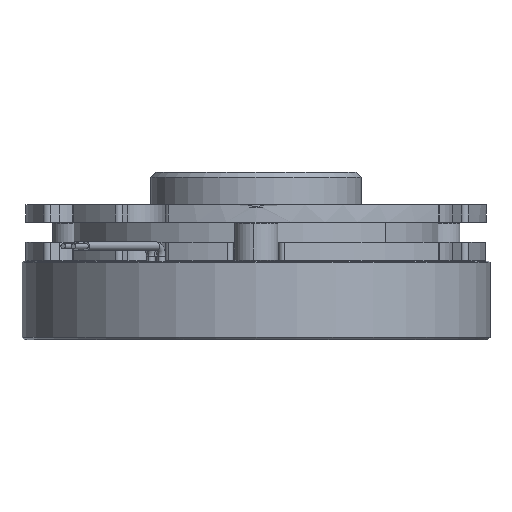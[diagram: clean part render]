
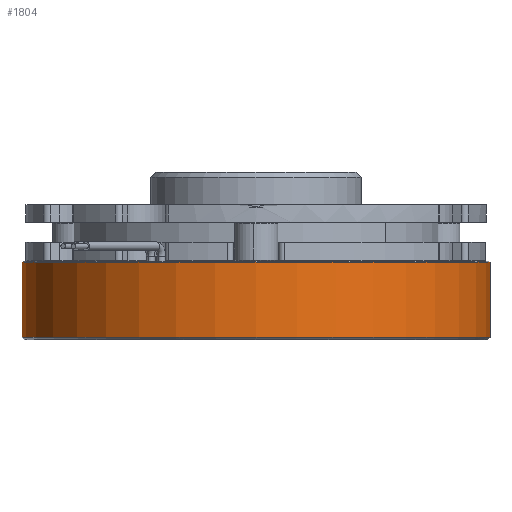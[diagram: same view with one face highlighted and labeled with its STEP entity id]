
A CAD part, front view. The second image highlights one B-rep face of the part: STEP entity #1804.
In plain terms, the highlighted cylindrical face has radius 46.75 mm (diameter 93.5 mm), a partial arc.
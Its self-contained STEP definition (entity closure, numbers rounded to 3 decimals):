
#413 = EDGE_LOOP ( 'NONE', ( #9579, #9580, #9581, #9582 ) ) ;
#1804 = ADVANCED_FACE ( 'NONE', ( #7446 ), #7454, .T. ) ;
#2130 = CARTESIAN_POINT ( 'NONE',  ( -46.75, 0., 15.5 ) ) ;
#2194 = CARTESIAN_POINT ( 'NONE',  ( 46.75, 0., 0.5 ) ) ;
#2315 = CARTESIAN_POINT ( 'NONE',  ( 46.75, 0., 15.5 ) ) ;
#2345 = CARTESIAN_POINT ( 'NONE',  ( -46.75, 0., 0.5 ) ) ;
#5763 = EDGE_CURVE ( 'NONE', #12122, #12396, #7245, .T. ) ;
#5764 = EDGE_CURVE ( 'NONE', #12344, #12186, #7243, .T. ) ;
#5780 = EDGE_CURVE ( 'NONE', #12396, #12186, #7273, .T. ) ;
#5826 = EDGE_CURVE ( 'NONE', #12344, #12122, #7341, .T. ) ;
#6372 = DIRECTION ( 'NONE',  ( 0., 0., -1. ) ) ;
#6383 = CARTESIAN_POINT ( 'NONE',  ( 0., 0., 15.7 ) ) ;
#7243 = LINE ( 'NONE', #12406, #7249 ) ;
#7245 = LINE ( 'NONE', #12401, #7247 ) ;
#7247 = VECTOR ( 'NONE', #12392, 1000. ) ;
#7249 = VECTOR ( 'NONE', #12413, 1000. ) ;
#7273 = CIRCLE ( 'NONE', #8344, 46.75 ) ;
#7341 = CIRCLE ( 'NONE', #8368, 46.75 ) ;
#7446 = FACE_OUTER_BOUND ( 'NONE', #413, .T. ) ;
#7454 = CYLINDRICAL_SURFACE ( 'NONE', #8027, 46.75 ) ;
#8027 = AXIS2_PLACEMENT_3D ( 'NONE', #6383, #6372, #13328 ) ;
#8344 = AXIS2_PLACEMENT_3D ( 'NONE', #12459, #12460, #12461 ) ;
#8368 = AXIS2_PLACEMENT_3D ( 'NONE', #9108, #9109, #9110 ) ;
#9108 = CARTESIAN_POINT ( 'NONE',  ( 0., 0., 15.5 ) ) ;
#9109 = DIRECTION ( 'NONE',  ( 0., 0., -1. ) ) ;
#9110 = DIRECTION ( 'NONE',  ( 1., 0., 0. ) ) ;
#9579 = ORIENTED_EDGE ( 'NONE', *, *, #5764, .F. ) ;
#9580 = ORIENTED_EDGE ( 'NONE', *, *, #5826, .T. ) ;
#9581 = ORIENTED_EDGE ( 'NONE', *, *, #5763, .T. ) ;
#9582 = ORIENTED_EDGE ( 'NONE', *, *, #5780, .T. ) ;
#12122 = VERTEX_POINT ( 'NONE', #2130 ) ;
#12186 = VERTEX_POINT ( 'NONE', #2194 ) ;
#12344 = VERTEX_POINT ( 'NONE', #2315 ) ;
#12392 = DIRECTION ( 'NONE',  ( 0., 0., -1. ) ) ;
#12396 = VERTEX_POINT ( 'NONE', #2345 ) ;
#12401 = CARTESIAN_POINT ( 'NONE',  ( -46.75, 0., 15.7 ) ) ;
#12406 = CARTESIAN_POINT ( 'NONE',  ( 46.75, 0., 15.7 ) ) ;
#12413 = DIRECTION ( 'NONE',  ( 0., 0., -1. ) ) ;
#12459 = CARTESIAN_POINT ( 'NONE',  ( 0., 0., 0.5 ) ) ;
#12460 = DIRECTION ( 'NONE',  ( 0., 0., 1. ) ) ;
#12461 = DIRECTION ( 'NONE',  ( 1., 0., 0. ) ) ;
#13328 = DIRECTION ( 'NONE',  ( -1., 0., 0. ) ) ;
